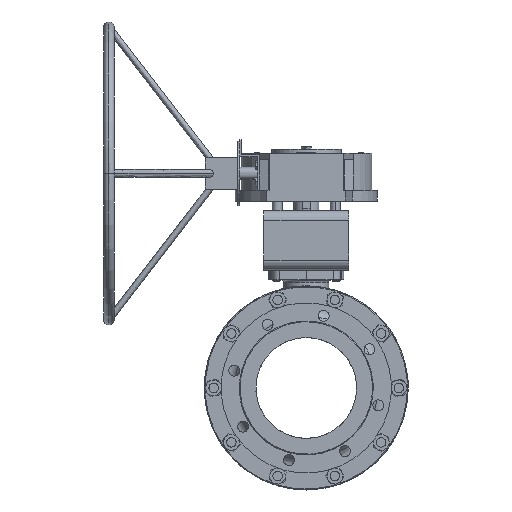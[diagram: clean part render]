
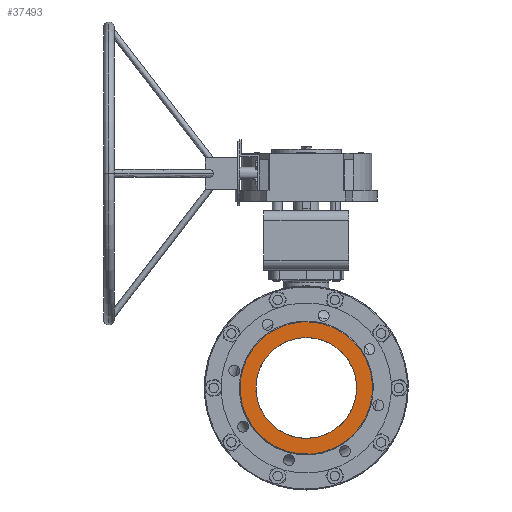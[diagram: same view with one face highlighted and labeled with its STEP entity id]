
A CAD part, left-side view. The second image highlights one B-rep face of the part: STEP entity #37493.
In plain terms, the highlighted planar face has unit normal (-1, 0, 0).
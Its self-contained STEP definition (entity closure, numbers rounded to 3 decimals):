
#34635 = CYLINDRICAL_SURFACE('',#34636,101.5);
#34636 = AXIS2_PLACEMENT_3D('',#34637,#34638,#34639);
#34637 = CARTESIAN_POINT('',(-335.099,-171.12,
    0.));
#34638 = DIRECTION('',(-1.,0.,0.));
#34639 = DIRECTION('',(-0.,-0.809,-0.588));
#34674 = VERTEX_POINT('',#34675);
#34675 = CARTESIAN_POINT('',(-228.5,-253.235,-59.66));
#34689 = CYLINDRICAL_SURFACE('',#34690,101.5);
#34690 = AXIS2_PLACEMENT_3D('',#34691,#34692,#34693);
#34691 = CARTESIAN_POINT('',(-335.099,-171.12,
    0.));
#34692 = DIRECTION('',(-1.,0.,0.));
#34693 = DIRECTION('',(-0.,-0.809,-0.588));
#34701 = EDGE_CURVE('',#34702,#34674,#34704,.T.);
#34702 = VERTEX_POINT('',#34703);
#34703 = CARTESIAN_POINT('',(-228.5,-89.005,59.66));
#34704 = SURFACE_CURVE('',#34705,(#34710,#34717),.PCURVE_S1.);
#34705 = CIRCLE('',#34706,101.5);
#34706 = AXIS2_PLACEMENT_3D('',#34707,#34708,#34709);
#34707 = CARTESIAN_POINT('',(-228.5,-171.12,0.));
#34708 = DIRECTION('',(-1.,0.,0.));
#34709 = DIRECTION('',(-0.,-0.809,-0.588));
#34710 = PCURVE('',#34635,#34711);
#34711 = DEFINITIONAL_REPRESENTATION('',(#34712),#34716);
#34712 = LINE('',#34713,#34714);
#34713 = CARTESIAN_POINT('',(0.,-106.599));
#34714 = VECTOR('',#34715,1.);
#34715 = DIRECTION('',(1.,0.));
#34716 = ( GEOMETRIC_REPRESENTATION_CONTEXT(2) 
PARAMETRIC_REPRESENTATION_CONTEXT() REPRESENTATION_CONTEXT('2D SPACE',''
  ) );
#34717 = PCURVE('',#34718,#34723);
#34718 = PLANE('',#34719);
#34719 = AXIS2_PLACEMENT_3D('',#34720,#34721,#34722);
#34720 = CARTESIAN_POINT('',(-228.5,-171.12,0.)
  );
#34721 = DIRECTION('',(1.,0.,0.));
#34722 = DIRECTION('',(-0.,0.809,0.588));
#34723 = DEFINITIONAL_REPRESENTATION('',(#34724),#34732);
#34724 = ( BOUNDED_CURVE() B_SPLINE_CURVE(2,(#34725,#34726,#34727,#34728
    ,#34729,#34730,#34731),.UNSPECIFIED.,.T.,.F.) 
B_SPLINE_CURVE_WITH_KNOTS((1,2,2,2,2,1),(-2.094,0.,
    2.094,4.189,6.283,8.378),
.UNSPECIFIED.) CURVE() GEOMETRIC_REPRESENTATION_ITEM() 
RATIONAL_B_SPLINE_CURVE((1.,0.5,1.,0.5,1.,0.5,1.)) REPRESENTATION_ITEM(
  '') );
#34725 = CARTESIAN_POINT('',(-101.5,0.));
#34726 = CARTESIAN_POINT('',(-101.5,175.803));
#34727 = CARTESIAN_POINT('',(50.75,87.902));
#34728 = CARTESIAN_POINT('',(203.,0.));
#34729 = CARTESIAN_POINT('',(50.75,-87.902));
#34730 = CARTESIAN_POINT('',(-101.5,-175.803));
#34731 = CARTESIAN_POINT('',(-101.5,0.));
#34732 = ( GEOMETRIC_REPRESENTATION_CONTEXT(2) 
PARAMETRIC_REPRESENTATION_CONTEXT() REPRESENTATION_CONTEXT('2D SPACE',''
  ) );
#35011 = EDGE_CURVE('',#35012,#35014,#35016,.T.);
#35012 = VERTEX_POINT('',#35013);
#35013 = CARTESIAN_POINT('',(-228.5,-279.043,-78.411));
#35014 = VERTEX_POINT('',#35015);
#35015 = CARTESIAN_POINT('',(-228.5,-63.197,78.411));
#35016 = SURFACE_CURVE('',#35017,(#35022,#35034),.PCURVE_S1.);
#35017 = CIRCLE('',#35018,133.4);
#35018 = AXIS2_PLACEMENT_3D('',#35019,#35020,#35021);
#35019 = CARTESIAN_POINT('',(-228.5,-171.12,0.));
#35020 = DIRECTION('',(-1.,0.,0.));
#35021 = DIRECTION('',(-0.,-0.809,-0.588));
#35022 = PCURVE('',#35023,#35028);
#35023 = CONICAL_SURFACE('',#35024,135.,0.785);
#35024 = AXIS2_PLACEMENT_3D('',#35025,#35026,#35027);
#35025 = CARTESIAN_POINT('',(-226.9,-171.12,0.));
#35026 = DIRECTION('',(1.,0.,0.));
#35027 = DIRECTION('',(-0.,0.809,0.588));
#35028 = DEFINITIONAL_REPRESENTATION('',(#35029),#35033);
#35029 = LINE('',#35030,#35031);
#35030 = CARTESIAN_POINT('',(3.142,-1.6));
#35031 = VECTOR('',#35032,1.);
#35032 = DIRECTION('',(-1.,0.));
#35033 = ( GEOMETRIC_REPRESENTATION_CONTEXT(2) 
PARAMETRIC_REPRESENTATION_CONTEXT() REPRESENTATION_CONTEXT('2D SPACE',''
  ) );
#35034 = PCURVE('',#34718,#35035);
#35035 = DEFINITIONAL_REPRESENTATION('',(#35036),#35044);
#35036 = ( BOUNDED_CURVE() B_SPLINE_CURVE(2,(#35037,#35038,#35039,#35040
    ,#35041,#35042,#35043),.UNSPECIFIED.,.T.,.F.) 
B_SPLINE_CURVE_WITH_KNOTS((1,2,2,2,2,1),(-2.094,0.,
    2.094,4.189,6.283,8.378),
.UNSPECIFIED.) CURVE() GEOMETRIC_REPRESENTATION_ITEM() 
RATIONAL_B_SPLINE_CURVE((1.,0.5,1.,0.5,1.,0.5,1.)) REPRESENTATION_ITEM(
  '') );
#35037 = CARTESIAN_POINT('',(-133.4,0.));
#35038 = CARTESIAN_POINT('',(-133.4,231.056));
#35039 = CARTESIAN_POINT('',(66.7,115.528));
#35040 = CARTESIAN_POINT('',(266.8,0.));
#35041 = CARTESIAN_POINT('',(66.7,-115.528));
#35042 = CARTESIAN_POINT('',(-133.4,-231.056));
#35043 = CARTESIAN_POINT('',(-133.4,0.));
#35044 = ( GEOMETRIC_REPRESENTATION_CONTEXT(2) 
PARAMETRIC_REPRESENTATION_CONTEXT() REPRESENTATION_CONTEXT('2D SPACE',''
  ) );
#35062 = CONICAL_SURFACE('',#35063,135.,0.785);
#35063 = AXIS2_PLACEMENT_3D('',#35064,#35065,#35066);
#35064 = CARTESIAN_POINT('',(-226.9,-171.12,0.));
#35065 = DIRECTION('',(1.,0.,0.));
#35066 = DIRECTION('',(-0.,0.809,0.588));
#37493 = ADVANCED_FACE('',(#37494,#37523),#34718,.F.);
#37494 = FACE_BOUND('',#37495,.T.);
#37495 = EDGE_LOOP('',(#37496,#37522));
#37496 = ORIENTED_EDGE('',*,*,#37497,.F.);
#37497 = EDGE_CURVE('',#34674,#34702,#37498,.T.);
#37498 = SURFACE_CURVE('',#37499,(#37504,#37515),.PCURVE_S1.);
#37499 = CIRCLE('',#37500,101.5);
#37500 = AXIS2_PLACEMENT_3D('',#37501,#37502,#37503);
#37501 = CARTESIAN_POINT('',(-228.5,-171.12,0.));
#37502 = DIRECTION('',(-1.,0.,0.));
#37503 = DIRECTION('',(-0.,-0.809,-0.588));
#37504 = PCURVE('',#34718,#37505);
#37505 = DEFINITIONAL_REPRESENTATION('',(#37506),#37514);
#37506 = ( BOUNDED_CURVE() B_SPLINE_CURVE(2,(#37507,#37508,#37509,#37510
    ,#37511,#37512,#37513),.UNSPECIFIED.,.T.,.F.) 
B_SPLINE_CURVE_WITH_KNOTS((1,2,2,2,2,1),(-2.094,0.,
    2.094,4.189,6.283,8.378),
.UNSPECIFIED.) CURVE() GEOMETRIC_REPRESENTATION_ITEM() 
RATIONAL_B_SPLINE_CURVE((1.,0.5,1.,0.5,1.,0.5,1.)) REPRESENTATION_ITEM(
  '') );
#37507 = CARTESIAN_POINT('',(-101.5,0.));
#37508 = CARTESIAN_POINT('',(-101.5,175.803));
#37509 = CARTESIAN_POINT('',(50.75,87.902));
#37510 = CARTESIAN_POINT('',(203.,0.));
#37511 = CARTESIAN_POINT('',(50.75,-87.902));
#37512 = CARTESIAN_POINT('',(-101.5,-175.803));
#37513 = CARTESIAN_POINT('',(-101.5,0.));
#37514 = ( GEOMETRIC_REPRESENTATION_CONTEXT(2) 
PARAMETRIC_REPRESENTATION_CONTEXT() REPRESENTATION_CONTEXT('2D SPACE',''
  ) );
#37515 = PCURVE('',#34689,#37516);
#37516 = DEFINITIONAL_REPRESENTATION('',(#37517),#37521);
#37517 = LINE('',#37518,#37519);
#37518 = CARTESIAN_POINT('',(0.,-106.599));
#37519 = VECTOR('',#37520,1.);
#37520 = DIRECTION('',(1.,0.));
#37521 = ( GEOMETRIC_REPRESENTATION_CONTEXT(2) 
PARAMETRIC_REPRESENTATION_CONTEXT() REPRESENTATION_CONTEXT('2D SPACE',''
  ) );
#37522 = ORIENTED_EDGE('',*,*,#34701,.F.);
#37523 = FACE_BOUND('',#37524,.T.);
#37524 = EDGE_LOOP('',(#37525,#37551));
#37525 = ORIENTED_EDGE('',*,*,#37526,.T.);
#37526 = EDGE_CURVE('',#35014,#35012,#37527,.T.);
#37527 = SURFACE_CURVE('',#37528,(#37533,#37544),.PCURVE_S1.);
#37528 = CIRCLE('',#37529,133.4);
#37529 = AXIS2_PLACEMENT_3D('',#37530,#37531,#37532);
#37530 = CARTESIAN_POINT('',(-228.5,-171.12,0.));
#37531 = DIRECTION('',(-1.,0.,0.));
#37532 = DIRECTION('',(-0.,-0.809,-0.588));
#37533 = PCURVE('',#34718,#37534);
#37534 = DEFINITIONAL_REPRESENTATION('',(#37535),#37543);
#37535 = ( BOUNDED_CURVE() B_SPLINE_CURVE(2,(#37536,#37537,#37538,#37539
    ,#37540,#37541,#37542),.UNSPECIFIED.,.T.,.F.) 
B_SPLINE_CURVE_WITH_KNOTS((1,2,2,2,2,1),(-2.094,0.,
    2.094,4.189,6.283,8.378),
.UNSPECIFIED.) CURVE() GEOMETRIC_REPRESENTATION_ITEM() 
RATIONAL_B_SPLINE_CURVE((1.,0.5,1.,0.5,1.,0.5,1.)) REPRESENTATION_ITEM(
  '') );
#37536 = CARTESIAN_POINT('',(-133.4,0.));
#37537 = CARTESIAN_POINT('',(-133.4,231.056));
#37538 = CARTESIAN_POINT('',(66.7,115.528));
#37539 = CARTESIAN_POINT('',(266.8,0.));
#37540 = CARTESIAN_POINT('',(66.7,-115.528));
#37541 = CARTESIAN_POINT('',(-133.4,-231.056));
#37542 = CARTESIAN_POINT('',(-133.4,0.));
#37543 = ( GEOMETRIC_REPRESENTATION_CONTEXT(2) 
PARAMETRIC_REPRESENTATION_CONTEXT() REPRESENTATION_CONTEXT('2D SPACE',''
  ) );
#37544 = PCURVE('',#35062,#37545);
#37545 = DEFINITIONAL_REPRESENTATION('',(#37546),#37550);
#37546 = LINE('',#37547,#37548);
#37547 = CARTESIAN_POINT('',(9.425,-1.6));
#37548 = VECTOR('',#37549,1.);
#37549 = DIRECTION('',(-1.,0.));
#37550 = ( GEOMETRIC_REPRESENTATION_CONTEXT(2) 
PARAMETRIC_REPRESENTATION_CONTEXT() REPRESENTATION_CONTEXT('2D SPACE',''
  ) );
#37551 = ORIENTED_EDGE('',*,*,#35011,.T.);
